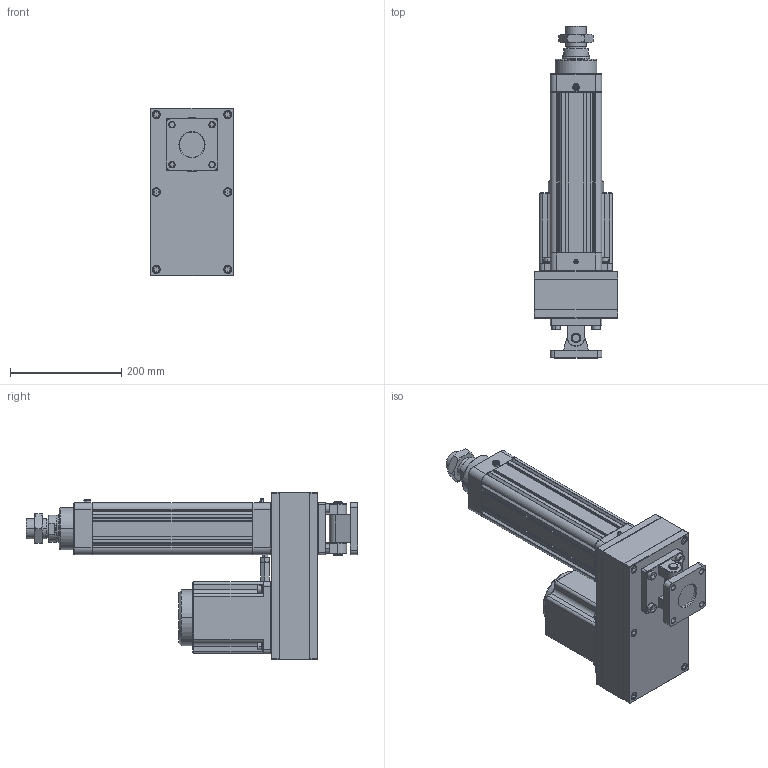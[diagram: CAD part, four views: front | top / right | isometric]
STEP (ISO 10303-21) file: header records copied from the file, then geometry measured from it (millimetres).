
FILE_DESCRIPTION((''),'2;1');
FILE_NAME('HE80-D-P_ASM','2020-05-14T',('ASUS20200'),(''),'CREO PARAMETRIC BY PTC INC, 2014190','CREO PARAMETRIC BY PTC INC, 2014190','');
FILE_SCHEMA(('CONFIG_CONTROL_DESIGN'));
Length unit declared in the file: millimetre
Products named in the file (30): HE80-D-P-001-X1; HE80-D-P-002-X1; HE80-D-P-003-X1; 30304J; YZ-M6X1; SLM-01; JDB506030; HE80-100-D-P-X1_ASM; HE80-P-010-X1-130N; 130ST-M10010; M10X25; HE80-P-009-X1-130N; HE80-P-013-X1-130N; TD-8; M8X35; M8X75; LM-M8-7-5; M10X1-25-40; LM-M10-30; LM-M10; HE80-D-P-005-X1; HE80-D-P-004-X1; HE80-D-P-008-X1; LGLM-M10-25; F-SE80CB; F-SE80CB-XD; F-SE80CB_ASM; F-SE80CA; M10X30; HE80-D-P_ASM
Assembly tree (53 placements, depth 3):
  HE80-D-P_ASM
    HE80-100-D-P-X1_ASM
      HE80-D-P-001-X1
      HE80-D-P-002-X1
      HE80-D-P-003-X1
      30304J  x2
      YZ-M6X1
      SLM-01
      JDB506030
    HE80-P-010-X1-130N
    130ST-M10010
    M10X25  x4
    HE80-P-009-X1-130N
    HE80-P-013-X1-130N
    TD-8  x4
    M8X35  x4
    M8X75  x6
    LM-M8-7-5  x4
    M10X1-25-40
    LM-M10-30
    LM-M10
    HE80-D-P-005-X1
    HE80-D-P-004-X1
    HE80-D-P-008-X1
    LGLM-M10-25  x4
    F-SE80CB_ASM
      F-SE80CB
      F-SE80CB-XD
    F-SE80CA
    M10X30  x4
Bounding box: 150 x 596 x 300 mm (x, y, z)
Volume: 5812818.2 mm3; surface area: 1089605.9 mm2
Topology: 51 solids, 85 shells, 2748 faces, 6318 edges, 3773 vertices
Faces by surface type: plane 1011, cone 858, cylinder 727, torus 122, sphere 26, bspline 4
Entity records: 63499 total; most frequent: CARTESIAN_POINT 12110, DIRECTION 11313, ORIENTED_EDGE 9958, EDGE_CURVE 5038, AXIS2_PLACEMENT_3D 4307, VERTEX_POINT 3008, VECTOR 2699, LINE 2699
